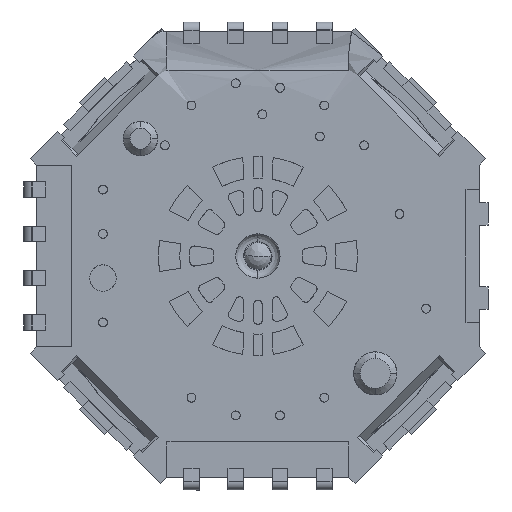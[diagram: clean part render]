
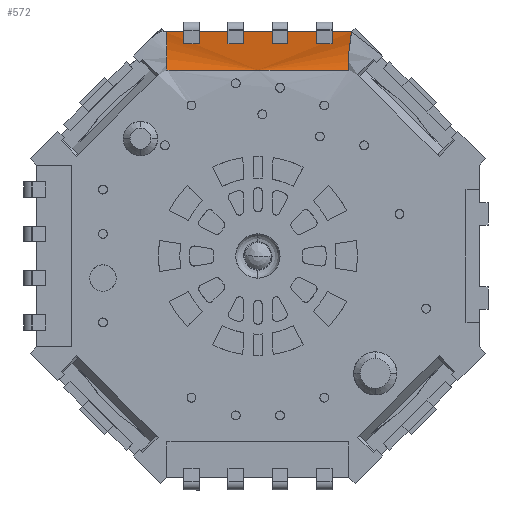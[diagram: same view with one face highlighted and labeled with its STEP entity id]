
A CAD part, front view. The second image highlights one B-rep face of the part: STEP entity #572.
In plain terms, the highlighted planar face has unit normal (0, -1, 0).
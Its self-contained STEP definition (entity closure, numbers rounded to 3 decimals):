
#478 = VERTEX_POINT ( 'NONE', #42879 ) ;
#495 = VERTEX_POINT ( 'NONE', #42989 ) ;
#497 = VERTEX_POINT ( 'NONE', #42977 ) ;
#502 = VERTEX_POINT ( 'NONE', #42965 ) ;
#518 = EDGE_CURVE ( 'NONE', #502, #495, #43058, .T. ) ;
#523 = EDGE_CURVE ( 'NONE', #478, #497, #43191, .T. ) ;
#545 = EDGE_CURVE ( 'NONE', #497, #502, #43329, .T. ) ;
#562 = ORIENTED_EDGE ( 'NONE', *, *, #523, .F. ) ;
#563 = ORIENTED_EDGE ( 'NONE', *, *, #573, .F. ) ;
#565 = ORIENTED_EDGE ( 'NONE', *, *, #545, .F. ) ;
#567 = ORIENTED_EDGE ( 'NONE', *, *, #518, .F. ) ;
#571 = EDGE_LOOP ( 'NONE', ( #562, #563, #567, #565 ) ) ;
#572 = ADVANCED_FACE ( 'NONE', ( #43567 ), #43627, .F. ) ;
#573 = EDGE_CURVE ( 'NONE', #495, #478, #43619, .T. ) ;
#42879 = CARTESIAN_POINT ( 'NONE',  ( 2.117, 0.052, 5.064 ) ) ;
#42965 = CARTESIAN_POINT ( 'NONE',  ( -2.053, 0.077, 4.2 ) ) ;
#42977 = CARTESIAN_POINT ( 'NONE',  ( 2.053, 0.077, 4.2 ) ) ;
#42989 = CARTESIAN_POINT ( 'NONE',  ( -2.13, 0.076, 5.076 ) ) ;
#43058 = B_SPLINE_CURVE_WITH_KNOTS ( 'NONE', 3,
 ( #43137, #43134, #43132, #43129, #43127, #43126, #43124, #43123, #43121, #43120, #43119, #43118, #43117, #43115, #43114, #43113, #43112 ),
 .UNSPECIFIED., .F., .F.,
 ( 4, 1, 1, 2, 2, 1, 1, 1, 2, 2, 4 ),
 ( 0., 0.25, 0.375, 0.437, 0.5, 0.625, 0.687, 0.719, 0.734, 0.75, 1. ),
 .UNSPECIFIED. ) ;
#43112 = CARTESIAN_POINT ( 'NONE',  ( -2.13, 0.076, 5.076 ) ) ;
#43113 = CARTESIAN_POINT ( 'NONE',  ( -2.053, 0.094, 4.966 ) ) ;
#43114 = CARTESIAN_POINT ( 'NONE',  ( -2.053, 0.107, 4.884 ) ) ;
#43115 = CARTESIAN_POINT ( 'NONE',  ( -2.053, 0.115, 4.825 ) ) ;
#43117 = CARTESIAN_POINT ( 'NONE',  ( -2.053, 0.116, 4.818 ) ) ;
#43118 = CARTESIAN_POINT ( 'NONE',  ( -2.053, 0.117, 4.808 ) ) ;
#43119 = CARTESIAN_POINT ( 'NONE',  ( -2.053, 0.119, 4.792 ) ) ;
#43120 = CARTESIAN_POINT ( 'NONE',  ( -2.053, 0.123, 4.757 ) ) ;
#43121 = CARTESIAN_POINT ( 'NONE',  ( -2.053, 0.129, 4.691 ) ) ;
#43123 = CARTESIAN_POINT ( 'NONE',  ( -2.053, 0.132, 4.639 ) ) ;
#43124 = CARTESIAN_POINT ( 'NONE',  ( -2.053, 0.133, 4.592 ) ) ;
#43126 = CARTESIAN_POINT ( 'NONE',  ( -2.053, 0.133, 4.574 ) ) ;
#43127 = CARTESIAN_POINT ( 'NONE',  ( -2.053, 0.132, 4.54 ) ) ;
#43129 = CARTESIAN_POINT ( 'NONE',  ( -2.053, 0.13, 4.489 ) ) ;
#43132 = CARTESIAN_POINT ( 'NONE',  ( -2.053, 0.118, 4.37 ) ) ;
#43134 = CARTESIAN_POINT ( 'NONE',  ( -2.053, 0.097, 4.268 ) ) ;
#43137 = CARTESIAN_POINT ( 'NONE',  ( -2.053, 0.077, 4.2 ) ) ;
#43187 = CARTESIAN_POINT ( 'NONE',  ( 2.053, 0.077, 4.2 ) ) ;
#43188 = CARTESIAN_POINT ( 'NONE',  ( 2.053, 0.153, 4.467 ) ) ;
#43189 = CARTESIAN_POINT ( 'NONE',  ( 2.053, 0.153, 4.734 ) ) ;
#43190 = CARTESIAN_POINT ( 'NONE',  ( 2.117, 0.052, 5.064 ) ) ;
#43191 = B_SPLINE_CURVE_WITH_KNOTS ( 'NONE', 3,
 ( #43190, #43189, #43188, #43187 ),
 .UNSPECIFIED., .F., .F.,
 ( 4, 4 ),
 ( 0., 1. ),
 .UNSPECIFIED. ) ;
#43323 = CARTESIAN_POINT ( 'NONE',  ( 0.684, 0.154, 4.2 ) ) ;
#43324 = CARTESIAN_POINT ( 'NONE',  ( 2.053, 0.077, 4.2 ) ) ;
#43329 = B_SPLINE_CURVE_WITH_KNOTS ( 'NONE', 3,
 ( #43324, #43323, #43406, #43405 ),
 .UNSPECIFIED., .F., .F.,
 ( 4, 4 ),
 ( 0., 1. ),
 .UNSPECIFIED. ) ;
#43405 = CARTESIAN_POINT ( 'NONE',  ( -2.053, 0.077, 4.2 ) ) ;
#43406 = CARTESIAN_POINT ( 'NONE',  ( -0.684, 0.154, 4.2 ) ) ;
#43567 = FACE_OUTER_BOUND ( 'NONE', #571, .T. ) ;
#43612 = DIRECTION ( 'NONE',  ( 1., 0., 0. ) ) ;
#43614 = VECTOR ( 'NONE', #43612, 1000. ) ;
#43617 = CARTESIAN_POINT ( 'NONE',  ( -2.053, 0.154, 5. ) ) ;
#43619 = LINE ( 'NONE', #43617, #43614 ) ;
#43620 = DIRECTION ( 'NONE',  ( 1., 0., 0. ) ) ;
#43621 = DIRECTION ( 'NONE',  ( 0., 1., 0. ) ) ;
#43622 = CARTESIAN_POINT ( 'NONE',  ( -2.053, 0.154, 4.2 ) ) ;
#43623 = AXIS2_PLACEMENT_3D ( 'NONE', #43622, #43621, #43620 ) ;
#43627 = PLANE ( 'NONE',  #43623 ) ;
